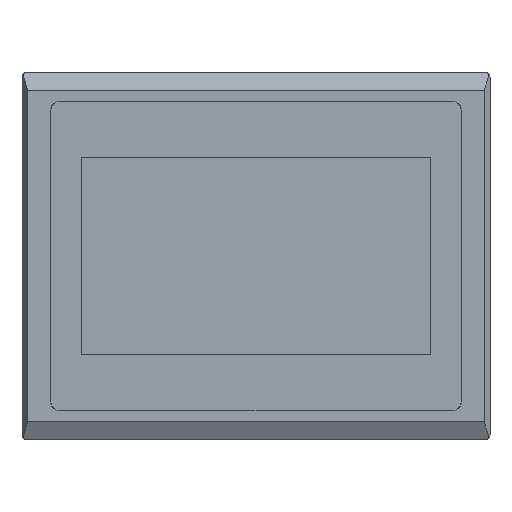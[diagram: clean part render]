
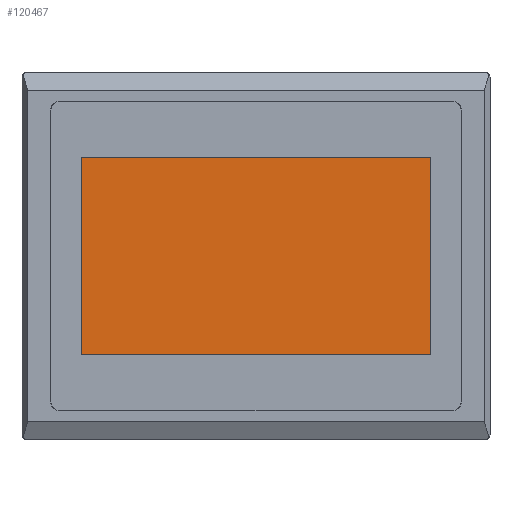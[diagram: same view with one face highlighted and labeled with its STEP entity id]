
A CAD part, top view. The second image highlights one B-rep face of the part: STEP entity #120467.
In plain terms, the highlighted planar face has unit normal (0, 0, 1).
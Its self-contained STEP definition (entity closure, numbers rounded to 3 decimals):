
#4781 = CARTESIAN_POINT ( 'NONE',  ( -77.65, -37.34, -0.02 ) ) ;
#11278 = LINE ( 'NONE', #98207, #61672 ) ;
#11411 = DIRECTION ( 'NONE',  ( 0., 1., 0. ) ) ;
#15045 = VERTEX_POINT ( 'NONE', #4781 ) ;
#21061 = CARTESIAN_POINT ( 'NONE',  ( -77.65, -37.34, -0.02 ) ) ;
#21726 = CARTESIAN_POINT ( 'NONE',  ( 77.65, -37.34, -0.02 ) ) ;
#25091 = CARTESIAN_POINT ( 'NONE',  ( 0., 6.51, -0.02 ) ) ;
#33146 = CARTESIAN_POINT ( 'NONE',  ( 77.65, -37.34, -0.02 ) ) ;
#61672 = VECTOR ( 'NONE', #264153, 1000. ) ;
#64978 = LINE ( 'NONE', #21061, #243443 ) ;
#71235 = DIRECTION ( 'NONE',  ( 1., 0., 0. ) ) ;
#74599 = VERTEX_POINT ( 'NONE', #238253 ) ;
#78592 = VERTEX_POINT ( 'NONE', #21726 ) ;
#81369 = EDGE_CURVE ( 'NONE', #15045, #78592, #64978, .T. ) ;
#84704 = ORIENTED_EDGE ( 'NONE', *, *, #203355, .T. ) ;
#88934 = DIRECTION ( 'NONE',  ( 0., 0., 1. ) ) ;
#92950 = FACE_OUTER_BOUND ( 'NONE', #118333, .T. ) ;
#97536 = EDGE_CURVE ( 'NONE', #74599, #210401, #267991, .T. ) ;
#98207 = CARTESIAN_POINT ( 'NONE',  ( -77.65, 50.36, -0.02 ) ) ;
#104844 = DIRECTION ( 'NONE',  ( -1., 0., 0. ) ) ;
#118333 = EDGE_LOOP ( 'NONE', ( #84704, #189630, #196635, #231205 ) ) ;
#120467 = ADVANCED_FACE ( 'NONE', ( #92950 ), #154211, .T. ) ;
#136380 = CARTESIAN_POINT ( 'NONE',  ( -77.65, 50.36, -0.02 ) ) ;
#139428 = VECTOR ( 'NONE', #104844, 1000. ) ;
#148734 = VECTOR ( 'NONE', #11411, 1000. ) ;
#154211 = PLANE ( 'NONE',  #206509 ) ;
#159054 = EDGE_CURVE ( 'NONE', #78592, #74599, #219434, .T. ) ;
#163834 = DIRECTION ( 'NONE',  ( 1., 0., 0. ) ) ;
#189630 = ORIENTED_EDGE ( 'NONE', *, *, #81369, .T. ) ;
#196635 = ORIENTED_EDGE ( 'NONE', *, *, #159054, .T. ) ;
#203355 = EDGE_CURVE ( 'NONE', #210401, #15045, #11278, .T. ) ;
#204098 = CARTESIAN_POINT ( 'NONE',  ( 77.65, 50.36, -0.02 ) ) ;
#206509 = AXIS2_PLACEMENT_3D ( 'NONE', #25091, #88934, #71235 ) ;
#210401 = VERTEX_POINT ( 'NONE', #136380 ) ;
#219434 = LINE ( 'NONE', #33146, #148734 ) ;
#231205 = ORIENTED_EDGE ( 'NONE', *, *, #97536, .T. ) ;
#238253 = CARTESIAN_POINT ( 'NONE',  ( 77.65, 50.36, -0.02 ) ) ;
#243443 = VECTOR ( 'NONE', #163834, 1000. ) ;
#264153 = DIRECTION ( 'NONE',  ( 0., -1., 0. ) ) ;
#267991 = LINE ( 'NONE', #204098, #139428 ) ;
